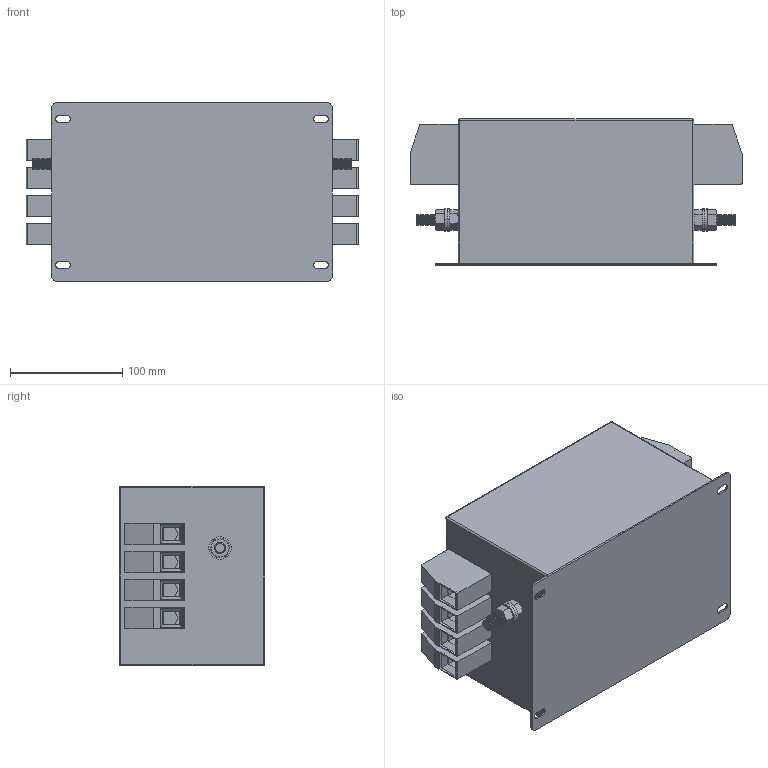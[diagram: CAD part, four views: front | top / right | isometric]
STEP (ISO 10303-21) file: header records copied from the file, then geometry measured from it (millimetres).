
FILE_DESCRIPTION (( 'STEP AP203' ), '1' );
FILE_NAME ('NF-4-100-FSK.STEP', '2013-07-12T14:34:59', ( 'Owner' ), ( 'EPA' ), 'SwSTEP 2.0', 'SolidWorks 2007', '' );
FILE_SCHEMA (( 'CONFIG_CONTROL_DESIGN' ));
Length unit declared in the file: millimetre
Products named in the file (7): FSK-3; Hex Nut Style 1_AM_B18.2.4.1M - Hex nut, Style 1,  M10 x 1.5, with 16mm WAF --D-N; NF-4-100-FSK; HDFK-50; M10x30 Earth post; Hex Screw_AM_B18.6.7M - M10 x 1.5 x 30 Plain HHMS --30S; Flat Washer Narrow_AM_B18.22M - Plain washer, 10 mm, narrow
Assembly tree (15 placements, depth 3):
  NF-4-100-FSK
    FSK-3
    M10x30 Earth post  x2
      Flat Washer Narrow_AM_B18.22M - Plain washer, 10 mm, narrow
      Hex Screw_AM_B18.6.7M - M10 x 1.5 x 30 Plain HHMS --30S
      Hex Nut Style 1_AM_B18.2.4.1M - Hex nut, Style 1,  M10 x 1.5, with 16mm WAF --D-N
    HDFK-50  x8
Bounding box: 296.01 x 130 x 160 mm (x, y, z)
Volume: 4464663.2 mm3; surface area: 422336 mm2
Topology: 18 solids, 18 shells, 904 faces, 2210 edges, 1404 vertices
Faces by surface type: plane 470, cylinder 230, cone 200, sphere 4
Entity records: 10423 total; most frequent: CARTESIAN_POINT 1784, DIRECTION 1714, ORIENTED_EDGE 1540, EDGE_CURVE 770, AXIS2_PLACEMENT_3D 656, VERTEX_POINT 486, LINE 402, VECTOR 402
